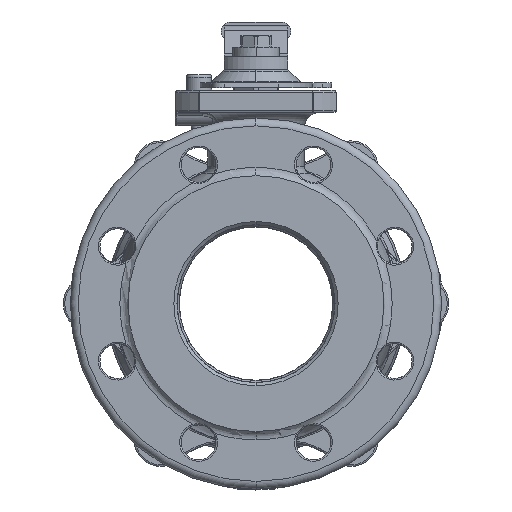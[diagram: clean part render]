
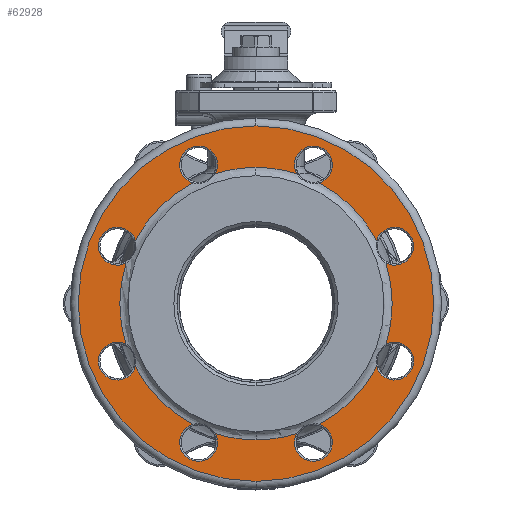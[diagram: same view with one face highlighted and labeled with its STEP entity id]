
A CAD part, left-side view. The second image highlights one B-rep face of the part: STEP entity #62928.
In plain terms, the highlighted planar face has unit normal (-1, 0, 0).
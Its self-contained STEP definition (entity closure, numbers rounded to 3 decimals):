
#3046=CARTESIAN_POINT('',(-72.,0.,0.));
#3047=DIRECTION('',(1.,0.,0.));
#3048=DIRECTION('',(0.,0.955,-0.298));
#3049=AXIS2_PLACEMENT_3D('',#3046,#3047,#3048);
#3051=CARTESIAN_POINT('',(-72.,0.,0.));
#3052=DIRECTION('',(1.,0.,0.));
#3053=DIRECTION('',(0.,0.464,-0.886));
#3054=AXIS2_PLACEMENT_3D('',#3051,#3052,#3053);
#3056=CARTESIAN_POINT('',(-72.,0.,0.));
#3057=DIRECTION('',(1.,0.,0.));
#3058=DIRECTION('',(0.,0.,-1.));
#3059=AXIS2_PLACEMENT_3D('',#3056,#3057,#3058);
#3061=CARTESIAN_POINT('',(-72.,0.,0.));
#3062=DIRECTION('',(-1.,0.,0.));
#3063=DIRECTION('',(0.,0.,-1.));
#3064=AXIS2_PLACEMENT_3D('',#3061,#3062,#3063);
#3066=CARTESIAN_POINT('',(-72.,0.,0.));
#3067=DIRECTION('',(-1.,0.,0.));
#3068=DIRECTION('',(0.,-0.464,-0.886));
#3069=AXIS2_PLACEMENT_3D('',#3066,#3067,#3068);
#3071=CARTESIAN_POINT('',(-72.,0.,0.));
#3072=DIRECTION('',(-1.,0.,0.));
#3073=DIRECTION('',(0.,-0.955,-0.298));
#3074=AXIS2_PLACEMENT_3D('',#3071,#3072,#3073);
#3076=CARTESIAN_POINT('',(-72.,0.,0.));
#3077=DIRECTION('',(-1.,0.,0.));
#3078=DIRECTION('',(0.,-0.886,0.464));
#3079=AXIS2_PLACEMENT_3D('',#3076,#3077,#3078);
#3081=CARTESIAN_POINT('',(-72.,0.,0.));
#3082=DIRECTION('',(-1.,0.,0.));
#3083=DIRECTION('',(0.,-0.298,0.955));
#3084=AXIS2_PLACEMENT_3D('',#3081,#3082,#3083);
#3086=CARTESIAN_POINT('',(-72.,0.,0.));
#3087=DIRECTION('',(1.,0.,0.));
#3088=DIRECTION('',(0.,0.298,0.955));
#3089=AXIS2_PLACEMENT_3D('',#3086,#3087,#3088);
#3091=CARTESIAN_POINT('',(-72.,0.,0.));
#3092=DIRECTION('',(1.,0.,0.));
#3093=DIRECTION('',(0.,0.886,0.464));
#3094=AXIS2_PLACEMENT_3D('',#3091,#3092,#3093);
#3101=CARTESIAN_POINT('',(-72.,0.,0.));
#3102=DIRECTION('',(1.,0.,0.));
#3103=DIRECTION('',(0.,0.,-1.));
#3104=AXIS2_PLACEMENT_3D('',#3101,#3102,#3103);
#3124=CARTESIAN_POINT('',(-72.,0.,0.));
#3125=DIRECTION('',(1.,0.,0.));
#3126=DIRECTION('',(0.,0.,1.));
#3127=AXIS2_PLACEMENT_3D('',#3124,#3125,#3126);
#38439=CARTESIAN_POINT('',(-72.,87.769,36.355));
#38440=DIRECTION('',(1.,0.,0.));
#38441=DIRECTION('',(0.,-0.457,-0.889));
#38442=AXIS2_PLACEMENT_3D('',#38439,#38440,#38441);
#38597=CARTESIAN_POINT('',(-72.,36.355,87.769));
#38598=DIRECTION('',(1.,0.,0.));
#38599=DIRECTION('',(0.,0.305,-0.952));
#38600=AXIS2_PLACEMENT_3D('',#38597,#38598,#38599);
#38746=CARTESIAN_POINT('',(-72.,-36.355,87.769));
#38747=DIRECTION('',(1.,0.,0.));
#38748=DIRECTION('',(0.,0.889,-0.457));
#38749=AXIS2_PLACEMENT_3D('',#38746,#38747,#38748);
#38895=CARTESIAN_POINT('',(-72.,-87.769,36.355));
#38896=DIRECTION('',(1.,0.,0.));
#38897=DIRECTION('',(0.,0.952,0.305));
#38898=AXIS2_PLACEMENT_3D('',#38895,#38896,#38897);
#39053=CARTESIAN_POINT('',(-72.,-87.769,-36.355));
#39054=DIRECTION('',(1.,0.,0.));
#39055=DIRECTION('',(0.,0.457,0.889));
#39056=AXIS2_PLACEMENT_3D('',#39053,#39054,#39055);
#39215=CARTESIAN_POINT('',(-72.,-36.355,-87.769));
#39216=DIRECTION('',(1.,0.,0.));
#39217=DIRECTION('',(0.,-0.305,0.952));
#39218=AXIS2_PLACEMENT_3D('',#39215,#39216,#39217);
#39364=CARTESIAN_POINT('',(-72.,36.355,-87.769));
#39365=DIRECTION('',(1.,0.,0.));
#39366=DIRECTION('',(0.,-0.889,0.457));
#39367=AXIS2_PLACEMENT_3D('',#39364,#39365,#39366);
#39509=CARTESIAN_POINT('',(-72.,87.769,-36.355));
#39510=DIRECTION('',(1.,0.,0.));
#39511=DIRECTION('',(0.,-0.952,-0.305));
#39512=AXIS2_PLACEMENT_3D('',#39509,#39510,#39511);
#49205=CARTESIAN_POINT('',(-72.,0.,-112.5));
#49206=CARTESIAN_POINT('',(-72.,0.,112.5));
#49207=VERTEX_POINT('',#49205);
#49208=VERTEX_POINT('',#49206);
#49345=CARTESIAN_POINT('',(-72.,82.281,25.683));
#49346=VERTEX_POINT('',#49345);
#49347=CARTESIAN_POINT('',(-72.,40.021,76.342));
#49348=VERTEX_POINT('',#49347);
#49349=CARTESIAN_POINT('',(-72.,-25.683,82.281));
#49350=VERTEX_POINT('',#49349);
#49351=CARTESIAN_POINT('',(-72.,-76.342,40.021));
#49352=VERTEX_POINT('',#49351);
#49353=CARTESIAN_POINT('',(-72.,-82.281,-25.683));
#49354=VERTEX_POINT('',#49353);
#49355=CARTESIAN_POINT('',(-72.,-40.021,-76.342));
#49356=VERTEX_POINT('',#49355);
#49357=CARTESIAN_POINT('',(-72.,25.683,-82.281));
#49358=VERTEX_POINT('',#49357);
#49359=CARTESIAN_POINT('',(-72.,76.342,-40.021));
#49360=VERTEX_POINT('',#49359);
#49361=CARTESIAN_POINT('',(-72.,76.342,40.021));
#49362=VERTEX_POINT('',#49361);
#49363=CARTESIAN_POINT('',(-72.,25.683,82.281));
#49364=VERTEX_POINT('',#49363);
#49365=CARTESIAN_POINT('',(-72.,-40.021,76.342));
#49366=VERTEX_POINT('',#49365);
#49367=CARTESIAN_POINT('',(-72.,-82.281,25.683));
#49368=VERTEX_POINT('',#49367);
#49369=CARTESIAN_POINT('',(-72.,-76.342,-40.021));
#49370=VERTEX_POINT('',#49369);
#49371=CARTESIAN_POINT('',(-72.,-25.683,-82.281));
#49372=VERTEX_POINT('',#49371);
#49373=CARTESIAN_POINT('',(-72.,40.021,-76.342));
#49374=VERTEX_POINT('',#49373);
#49375=CARTESIAN_POINT('',(-72.,82.281,-25.683));
#49376=VERTEX_POINT('',#49375);
#50281=CARTESIAN_POINT('',(-72.,0.,86.196));
#50282=VERTEX_POINT('',#50281);
#50283=CARTESIAN_POINT('',(-72.,0.,-86.196));
#50284=VERTEX_POINT('',#50283);
#62889=CARTESIAN_POINT('',(-72.,0.,0.));
#62890=DIRECTION('',(-1.,0.,0.));
#62891=DIRECTION('',(0.,0.,1.));
#62892=AXIS2_PLACEMENT_3D('',#62889,#62890,#62891);
#62893=PLANE('',#62892);
#62895=ORIENTED_EDGE('',*,*,#62894,.T.);
#62897=ORIENTED_EDGE('',*,*,#62896,.T.);
#62898=EDGE_LOOP('',(#62895,#62897));
#62899=FACE_OUTER_BOUND('',#62898,.F.);
#62901=ORIENTED_EDGE('',*,*,#62900,.F.);
#62902=ORIENTED_EDGE('',*,*,#62873,.F.);
#62904=ORIENTED_EDGE('',*,*,#62903,.F.);
#62905=ORIENTED_EDGE('',*,*,#62867,.F.);
#62907=ORIENTED_EDGE('',*,*,#62906,.F.);
#62908=ORIENTED_EDGE('',*,*,#62863,.F.);
#62909=ORIENTED_EDGE('',*,*,#62849,.T.);
#62911=ORIENTED_EDGE('',*,*,#62910,.F.);
#62912=ORIENTED_EDGE('',*,*,#62845,.T.);
#62914=ORIENTED_EDGE('',*,*,#62913,.F.);
#62915=ORIENTED_EDGE('',*,*,#62839,.T.);
#62917=ORIENTED_EDGE('',*,*,#62916,.F.);
#62918=ORIENTED_EDGE('',*,*,#62833,.T.);
#62920=ORIENTED_EDGE('',*,*,#62919,.F.);
#62921=ORIENTED_EDGE('',*,*,#62829,.T.);
#62922=ORIENTED_EDGE('',*,*,#62883,.F.);
#62924=ORIENTED_EDGE('',*,*,#62923,.F.);
#62925=ORIENTED_EDGE('',*,*,#62879,.F.);
#62926=EDGE_LOOP('',(#62901,#62902,#62904,#62905,#62907,#62908,#62909,#62911,
#62912,#62914,#62915,#62917,#62918,#62920,#62921,#62922,#62924,#62925));
#62927=FACE_BOUND('',#62926,.F.);
#62928=ADVANCED_FACE('',(#62899,#62927),#62893,.T.);
#3050=CIRCLE('',#3049,86.196);
#3055=CIRCLE('',#3054,86.196);
#3060=CIRCLE('',#3059,86.196);
#3065=CIRCLE('',#3064,86.196);
#3070=CIRCLE('',#3069,86.196);
#3075=CIRCLE('',#3074,86.196);
#3080=CIRCLE('',#3079,86.196);
#3085=CIRCLE('',#3084,86.196);
#3090=CIRCLE('',#3089,86.196);
#3095=CIRCLE('',#3094,86.196);
#3105=CIRCLE('',#3104,112.5);
#3128=CIRCLE('',#3127,112.5);
#38443=CIRCLE('',#38442,12.);
#38601=CIRCLE('',#38600,12.);
#38750=CIRCLE('',#38749,12.);
#38899=CIRCLE('',#38898,12.);
#39057=CIRCLE('',#39056,12.);
#39219=CIRCLE('',#39218,12.);
#39368=CIRCLE('',#39367,12.);
#39513=CIRCLE('',#39512,12.);
#62829=EDGE_CURVE('',#49350,#50282,#3085,.T.);
#62833=EDGE_CURVE('',#49352,#49366,#3080,.T.);
#62839=EDGE_CURVE('',#49354,#49368,#3075,.T.);
#62845=EDGE_CURVE('',#49356,#49370,#3070,.T.);
#62849=EDGE_CURVE('',#50284,#49372,#3065,.T.);
#62863=EDGE_CURVE('',#50284,#49358,#3060,.T.);
#62867=EDGE_CURVE('',#49374,#49360,#3055,.T.);
#62873=EDGE_CURVE('',#49376,#49346,#3050,.T.);
#62879=EDGE_CURVE('',#49362,#49348,#3095,.T.);
#62883=EDGE_CURVE('',#49364,#50282,#3090,.T.);
#62894=EDGE_CURVE('',#49207,#49208,#3105,.T.);
#62896=EDGE_CURVE('',#49208,#49207,#3128,.T.);
#62900=EDGE_CURVE('',#49346,#49362,#38443,.T.);
#62903=EDGE_CURVE('',#49360,#49376,#39513,.T.);
#62906=EDGE_CURVE('',#49358,#49374,#39368,.T.);
#62910=EDGE_CURVE('',#49356,#49372,#39219,.T.);
#62913=EDGE_CURVE('',#49354,#49370,#39057,.T.);
#62916=EDGE_CURVE('',#49352,#49368,#38899,.T.);
#62919=EDGE_CURVE('',#49350,#49366,#38750,.T.);
#62923=EDGE_CURVE('',#49348,#49364,#38601,.T.);
